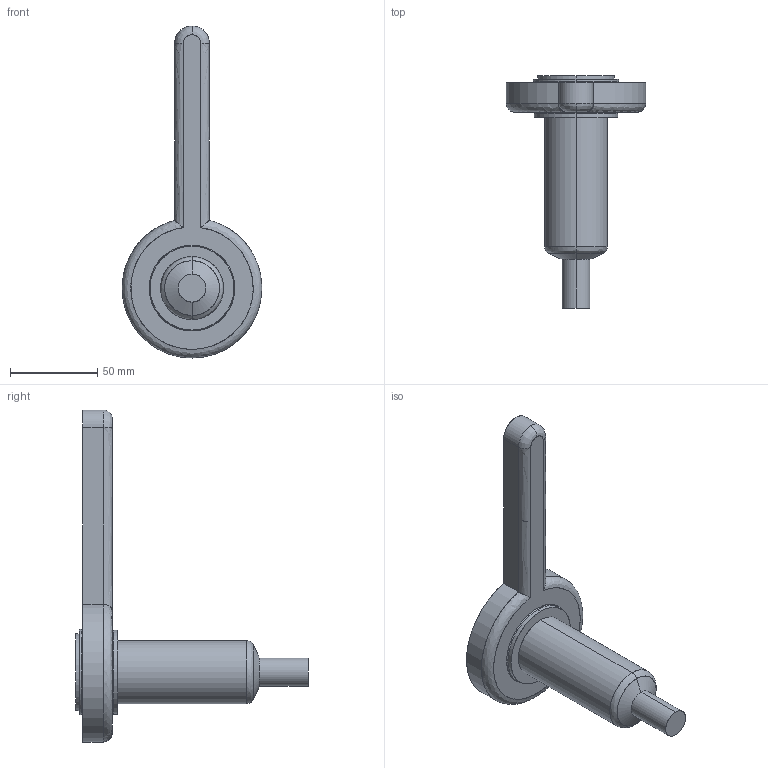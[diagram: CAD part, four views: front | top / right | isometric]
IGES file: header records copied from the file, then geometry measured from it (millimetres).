
Start section: SolidWorks IGES file using analytic representation for surfaces
Global section: file name: C:\Documents and Settings\ws-20\Desktop\TEMPORANEA\Sede UGBE5002-S-A C-84 L-106 P-25.IGS; native system: SolidWorks 2012; preprocessor: SolidWorks 2012; author: ws-20; date: 120307.090739; units: millimetre
Bounding box: 79.97 x 133.21 x 190 mm (x, y, z)
Surface area: 32314.9 mm2 (no closed solid volume)
Topology: 0 solids, 0 shells, 34 faces, 788 edges, 788 vertices
Faces by surface type: revolution 21, bspline 13
